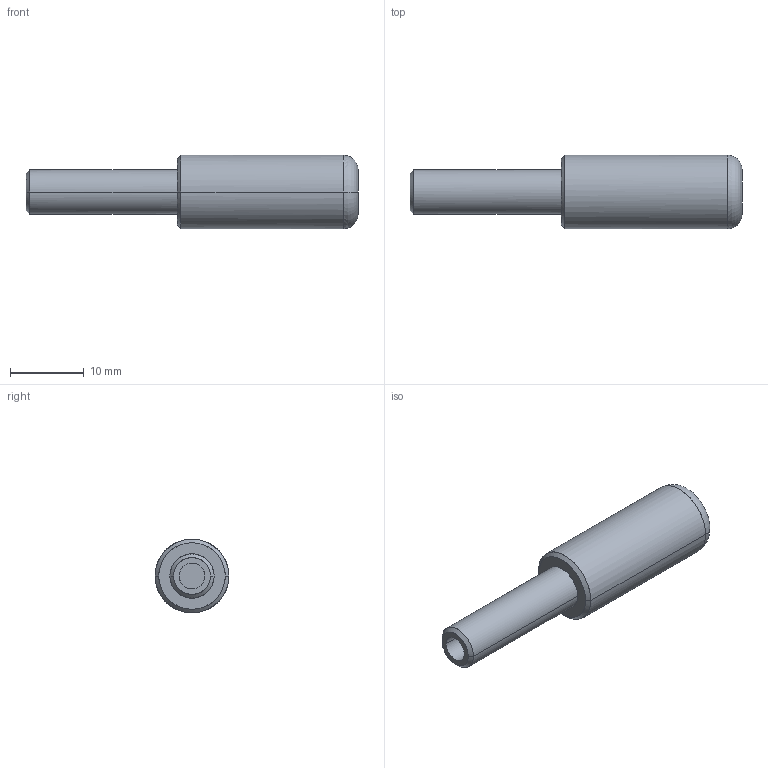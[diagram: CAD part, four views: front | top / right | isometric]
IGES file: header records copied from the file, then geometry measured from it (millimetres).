
Start section: --------------------------------------------------- ROBERT BOSCH GmbH, D-70442 Stuttgart Model-Name:      R412007899 Drawing-Name:    &dwg_name Format:          DIN &format Alle Rechte bei ROBERT BOSCH GmbH, auch fuer den Fall von Schutzrechtsanmeldungen. Jede Verfuegungs- befugnis, wie Kopier- und Weitergabe, bei uns. THIS DRAWING IS THE EXCLUSIVE PROPERTY OF ROBERT BOSCH GMBH. WITHOUT THEIR CONS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
Global section: file name: r412007899.igs; native system: Pro/ENGINEER by Parametric Technology Corporation; preprocessor: 2011490; author: mla1hc; organization: Unknown; date: 20150427.163148; units: millimetre
Bounding box: 45 x 10 x 9.99 mm (x, y, z)
Surface area: 1494.5 mm2 (no closed solid volume)
Topology: 0 solids, 0 shells, 16 faces, 60 edges, 60 vertices
Faces by surface type: revolution 12, bspline 4
